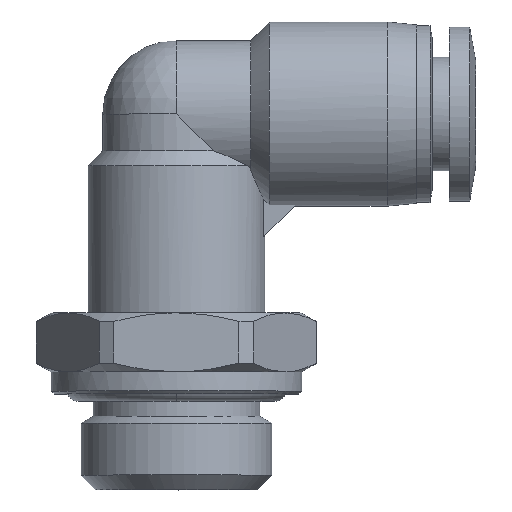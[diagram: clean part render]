
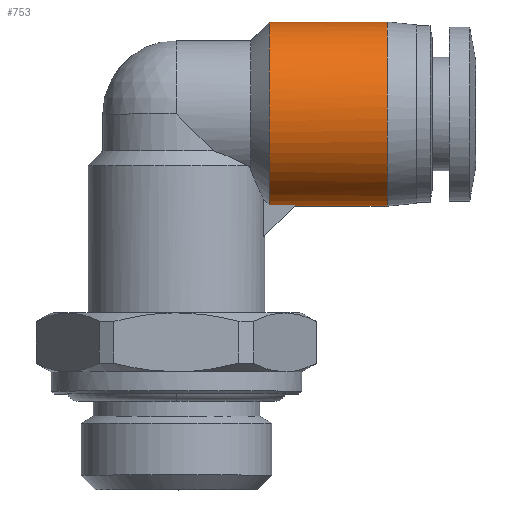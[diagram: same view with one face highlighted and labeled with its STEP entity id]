
A CAD part, top view. The second image highlights one B-rep face of the part: STEP entity #753.
In plain terms, the highlighted cylindrical face has radius 6.25 mm (diameter 12.5 mm), a partial arc.
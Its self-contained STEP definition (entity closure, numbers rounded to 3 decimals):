
#29 = CARTESIAN_POINT ( 'NONE',  ( 7.487, 7.331, 1. ) ) ;
#51 = CARTESIAN_POINT ( 'NONE',  ( 6.3, 7.331, 1. ) ) ;
#67 = CARTESIAN_POINT ( 'NONE',  ( 14.3, 8.502, 3.841 ) ) ;
#133 = B_SPLINE_CURVE_WITH_KNOTS ( 'NONE', 3,
 ( #1826, #3188, #3936, #3920, #67, #3899, #1845, #4259, #772, #4195, #3163, #3511, #3574, #4237, #1459, #1418, #434, #793 ),
 .UNSPECIFIED., .F., .F.,
 ( 4, 2, 2, 2, 2, 2, 2, 2, 4 ),
 ( 0.5, 0.563, 0.625, 0.688, 0.75, 0.813, 0.875, 0.938, 1. ),
 .UNSPECIFIED. ) ;
#231 = CARTESIAN_POINT ( 'NONE',  ( 6.3, 19.039, 2.998 ) ) ;
#250 = FACE_OUTER_BOUND ( 'NONE', #1421, .T. ) ;
#434 = CARTESIAN_POINT ( 'NONE',  ( 14.3, 19.75, 0.818 ) ) ;
#519 = CARTESIAN_POINT ( 'NONE',  ( 6.3, 16.933, 5.28 ) ) ;
#541 = CARTESIAN_POINT ( 'NONE',  ( 8.081, 7.331, 1. ) ) ;
#577 = EDGE_CURVE ( 'NONE', #3057, #629, #133, .T. ) ;
#629 = VERTEX_POINT ( 'NONE', #2953 ) ;
#753 = ADVANCED_FACE ( 'NONE', ( #250 ), #3089, .T. ) ;
#772 = CARTESIAN_POINT ( 'NONE',  ( 14.3, 12.682, 6.25 ) ) ;
#793 = CARTESIAN_POINT ( 'NONE',  ( 14.3, 19.75, 0. ) ) ;
#809 = EDGE_CURVE ( 'NONE', #1615, #629, #3139, .T. ) ;
#818 = CARTESIAN_POINT ( 'NONE',  ( 6.3, 12.443, 6.209 ) ) ;
#865 = CARTESIAN_POINT ( 'NONE',  ( 6.3, 14.775, 6.168 ) ) ;
#889 = CARTESIAN_POINT ( 'NONE',  ( 6.3, 8.513, 3.846 ) ) ;
#913 = CARTESIAN_POINT ( 'NONE',  ( 6.3, 10.956, 5.761 ) ) ;
#955 = DIRECTION ( 'NONE',  ( 1., 0., 0. ) ) ;
#1027 = CARTESIAN_POINT ( 'NONE',  ( 8.081, 7.331, 1. ) ) ;
#1128 = EDGE_CURVE ( 'NONE', #3130, #1151, #2507, .T. ) ;
#1151 = VERTEX_POINT ( 'NONE', #541 ) ;
#1418 = CARTESIAN_POINT ( 'NONE',  ( 14.3, 19.587, 1.636 ) ) ;
#1421 = EDGE_LOOP ( 'NONE', ( #2529, #2147, #3312, #3123, #2054, #4213 ) ) ;
#1459 = CARTESIAN_POINT ( 'NONE',  ( 14.3, 18.961, 3.148 ) ) ;
#1469 = EDGE_CURVE ( 'NONE', #1151, #2122, #4210, .T. ) ;
#1482 = B_SPLINE_CURVE_WITH_KNOTS ( 'NONE', 3,
 ( #1503, #2893, #4040, #889, #3670, #2982, #913, #818, #1944, #865, #1969, #519, #4015, #2220, #231, #3006, #4322, #4395 ),
 .UNSPECIFIED., .F., .F.,
 ( 4, 2, 2, 2, 2, 2, 2, 2, 4 ),
 ( 0., 0.063, 0.125, 0.188, 0.25, 0.313, 0.375, 0.438, 0.5 ),
 .UNSPECIFIED. ) ;
#1503 = CARTESIAN_POINT ( 'NONE',  ( 6.3, 7.331, 1. ) ) ;
#1558 = CARTESIAN_POINT ( 'NONE',  ( 8., 7.25, 0. ) ) ;
#1615 = VERTEX_POINT ( 'NONE', #1875 ) ;
#1710 = CARTESIAN_POINT ( 'NONE',  ( 10.3, 7.25, 0. ) ) ;
#1746 = CARTESIAN_POINT ( 'NONE',  ( 6.894, 7.331, 1. ) ) ;
#1814 = CARTESIAN_POINT ( 'NONE',  ( 6.3, 7.331, 1. ) ) ;
#1826 = CARTESIAN_POINT ( 'NONE',  ( 14.3, 7.25, 0. ) ) ;
#1845 = CARTESIAN_POINT ( 'NONE',  ( 14.3, 10.352, 5.461 ) ) ;
#1875 = CARTESIAN_POINT ( 'NONE',  ( 6.3, 19.75, 0. ) ) ;
#1944 = CARTESIAN_POINT ( 'NONE',  ( 6.3, 13.228, 6.292 ) ) ;
#1969 = CARTESIAN_POINT ( 'NONE',  ( 6.3, 15.537, 5.959 ) ) ;
#2054 = ORIENTED_EDGE ( 'NONE', *, *, #4137, .F. ) ;
#2122 = VERTEX_POINT ( 'NONE', #1814 ) ;
#2147 = ORIENTED_EDGE ( 'NONE', *, *, #2721, .T. ) ;
#2172 = CARTESIAN_POINT ( 'NONE',  ( 10.3, 19.75, 0. ) ) ;
#2220 = CARTESIAN_POINT ( 'NONE',  ( 6.3, 18.62, 3.668 ) ) ;
#2320 = AXIS2_PLACEMENT_3D ( 'NONE', #3069, #3117, #2398 ) ;
#2398 = DIRECTION ( 'NONE',  ( 0., 1., 0. ) ) ;
#2507 = B_SPLINE_CURVE_WITH_KNOTS ( 'NONE', 3,
 ( #3352, #4014, #4062, #2981 ),
 .UNSPECIFIED., .F., .F.,
 ( 4, 4 ),
 ( 0.5, 1. ),
 .UNSPECIFIED. ) ;
#2529 = ORIENTED_EDGE ( 'NONE', *, *, #1128, .F. ) ;
#2721 = EDGE_CURVE ( 'NONE', #3130, #3057, #3738, .T. ) ;
#2893 = CARTESIAN_POINT ( 'NONE',  ( 6.3, 7.455, 1.766 ) ) ;
#2922 = CARTESIAN_POINT ( 'NONE',  ( 14.3, 7.25, 0. ) ) ;
#2953 = CARTESIAN_POINT ( 'NONE',  ( 14.3, 19.75, 0. ) ) ;
#2981 = CARTESIAN_POINT ( 'NONE',  ( 8.081, 7.331, 1. ) ) ;
#2982 = CARTESIAN_POINT ( 'NONE',  ( 6.3, 10.255, 5.398 ) ) ;
#3006 = CARTESIAN_POINT ( 'NONE',  ( 6.3, 19.604, 1.552 ) ) ;
#3057 = VERTEX_POINT ( 'NONE', #2922 ) ;
#3069 = CARTESIAN_POINT ( 'NONE',  ( 10.3, 13.5, 0. ) ) ;
#3089 = CYLINDRICAL_SURFACE ( 'NONE', #2320, 6.25 ) ;
#3117 = DIRECTION ( 'NONE',  ( 1., 0., 0. ) ) ;
#3123 = ORIENTED_EDGE ( 'NONE', *, *, #809, .F. ) ;
#3130 = VERTEX_POINT ( 'NONE', #1558 ) ;
#3139 = LINE ( 'NONE', #2172, #3843 ) ;
#3163 = CARTESIAN_POINT ( 'NONE',  ( 14.3, 15.136, 6.087 ) ) ;
#3188 = CARTESIAN_POINT ( 'NONE',  ( 14.3, 7.25, 0.818 ) ) ;
#3312 = ORIENTED_EDGE ( 'NONE', *, *, #577, .T. ) ;
#3352 = CARTESIAN_POINT ( 'NONE',  ( 8., 7.25, 0. ) ) ;
#3511 = CARTESIAN_POINT ( 'NONE',  ( 14.3, 16.648, 5.461 ) ) ;
#3574 = CARTESIAN_POINT ( 'NONE',  ( 14.3, 17.341, 4.998 ) ) ;
#3670 = CARTESIAN_POINT ( 'NONE',  ( 6.3, 9.033, 4.44 ) ) ;
#3738 = LINE ( 'NONE', #1710, #4120 ) ;
#3827 = DIRECTION ( 'NONE',  ( 1., 0., 0. ) ) ;
#3843 = VECTOR ( 'NONE', #3827, 1000. ) ;
#3899 = CARTESIAN_POINT ( 'NONE',  ( 14.3, 9.659, 4.998 ) ) ;
#3920 = CARTESIAN_POINT ( 'NONE',  ( 14.3, 8.039, 3.148 ) ) ;
#3936 = CARTESIAN_POINT ( 'NONE',  ( 14.3, 7.413, 1.636 ) ) ;
#4014 = CARTESIAN_POINT ( 'NONE',  ( 7.999, 7.249, 0.333 ) ) ;
#4015 = CARTESIAN_POINT ( 'NONE',  ( 6.3, 17.567, 4.809 ) ) ;
#4040 = CARTESIAN_POINT ( 'NONE',  ( 6.3, 7.723, 2.509 ) ) ;
#4062 = CARTESIAN_POINT ( 'NONE',  ( 8.026, 7.276, 0.667 ) ) ;
#4120 = VECTOR ( 'NONE', #955, 1000. ) ;
#4137 = EDGE_CURVE ( 'NONE', #2122, #1615, #1482, .T. ) ;
#4195 = CARTESIAN_POINT ( 'NONE',  ( 14.3, 14.318, 6.25 ) ) ;
#4210 = B_SPLINE_CURVE_WITH_KNOTS ( 'NONE', 3,
 ( #1027, #29, #1746, #51 ),
 .UNSPECIFIED., .F., .F.,
 ( 4, 4 ),
 ( 0., 1. ),
 .UNSPECIFIED. ) ;
#4213 = ORIENTED_EDGE ( 'NONE', *, *, #1469, .F. ) ;
#4237 = CARTESIAN_POINT ( 'NONE',  ( 14.3, 18.498, 3.841 ) ) ;
#4259 = CARTESIAN_POINT ( 'NONE',  ( 14.3, 11.864, 6.087 ) ) ;
#4322 = CARTESIAN_POINT ( 'NONE',  ( 6.3, 19.75, 0.776 ) ) ;
#4395 = CARTESIAN_POINT ( 'NONE',  ( 6.3, 19.75, 0. ) ) ;
